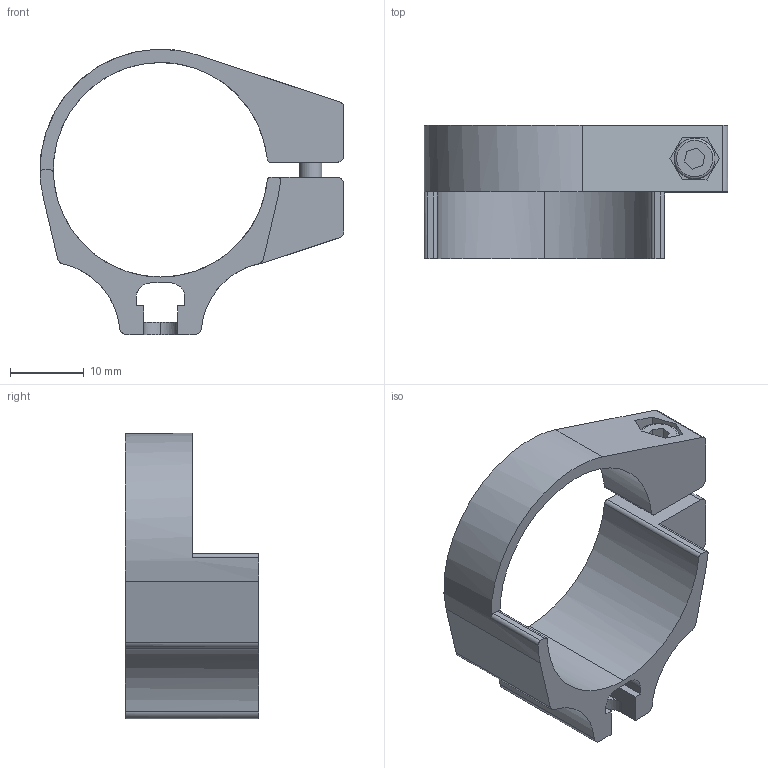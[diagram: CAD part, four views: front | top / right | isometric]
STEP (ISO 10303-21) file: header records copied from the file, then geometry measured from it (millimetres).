
FILE_DESCRIPTION(('STEP AP214'),'1');
FILE_NAME('CA.TIK.30007.stp','2017-12-14T16:33:23',(' '),(' '),'Spatial InterOp 3D',' ',' ');
FILE_SCHEMA(('AUTOMOTIVE_DESIGN { 1 0 10303 214 1 1 1 1 }'));
Length unit declared in the file: millimetre
Products named in the file (4): V.TCE3x16; R.3.SCH; D29
Assembly tree (3 placements, depth 2):
  (unnamed)
    V.TCE3x16
    R.3.SCH
    D29
Bounding box: 41.09 x 18 x 38.59 mm (x, y, z)
Volume: 5343.7 mm3; surface area: 4943.4 mm2
Topology: 3 solids, 3 shells, 271 faces, 829 edges, 564 vertices
Faces by surface type: plane 202, revolution 32, bspline 30, cylinder 4, torus 2, cone 1
Full cylindrical faces by diameter (mm): 3 x1, 3.5 x1, 5.5 x2
Entity records: 12000 total; most frequent: CARTESIAN_POINT 2609, ORIENTED_EDGE 1640, DIRECTION 1297, EDGE_CURVE 820, VERTEX_POINT 562, LINE 441, VECTOR 441, AXIS2_PLACEMENT_3D 412
